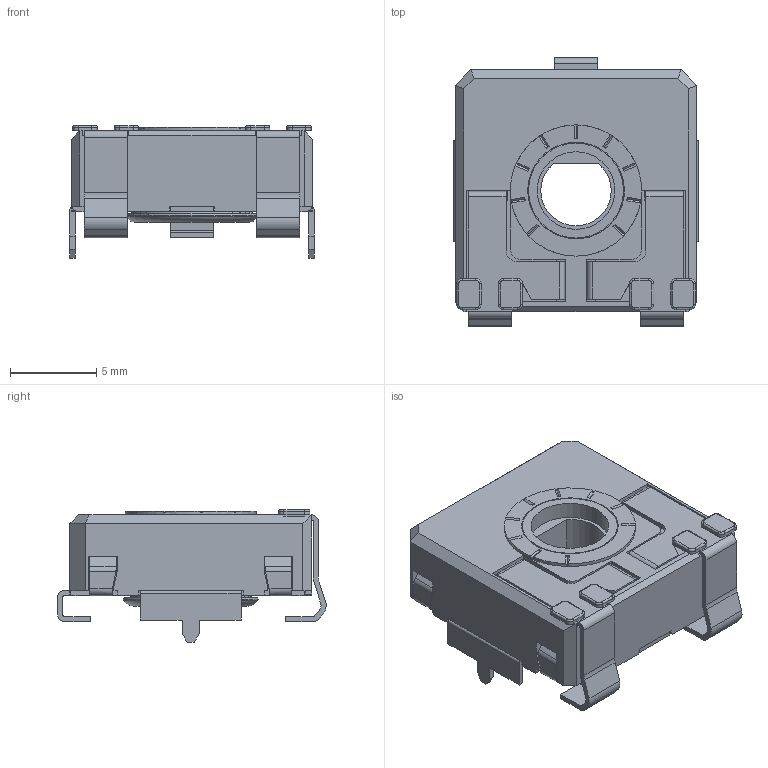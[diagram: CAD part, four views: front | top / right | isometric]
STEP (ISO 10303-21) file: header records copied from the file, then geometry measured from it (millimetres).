
FILE_DESCRIPTION(/* description */ (''),/* implementation_level */ '2;1');
FILE_NAME(/* name */ 'C:\Users\CEM\Desktop\ENVIAR\TRANSICION 3D CATALOGOS\RS14DVSMD CY.stp',/* time_stamp */ '2025-12-10T12:18:52+01:00',/* author */ ('CEM'),/* organization */ (''),/* preprocessor_version */ 'ST-DEVELOPER v16.13',/* originating_system */ 'Autodesk Inventor 2018',/* authorisation */ '');
FILE_SCHEMA (('AUTOMOTIVE_DESIGN { 1 0 10303 214 3 1 1 }'));
Length unit declared in the file: millimetre
Products named in the file (1): CARCASA CA14 PGA
Bounding box: 14.15 x 15.55 x 7.7 mm (x, y, z)
Volume: 536.1 mm3; surface area: 1504.4 mm2
Topology: 1 solids, 1 shells, 567 faces, 1602 edges, 1023 vertices
Faces by surface type: plane 421, cylinder 109, torus 23, bspline 8, cone 6
Full cylindrical faces by diameter (mm): 4.5 x1, 5.1 x1, 5.5 x1, 5.6 x1, 5.752 x1, 6.8 x1, 7.6 x1
Entity records: 18426 total; most frequent: CARTESIAN_POINT 3382, ORIENTED_EDGE 3170, DIRECTION 2978, EDGE_CURVE 1585, LINE 1256, VECTOR 1256, VERTEX_POINT 1017, AXIS2_PLACEMENT_3D 861
